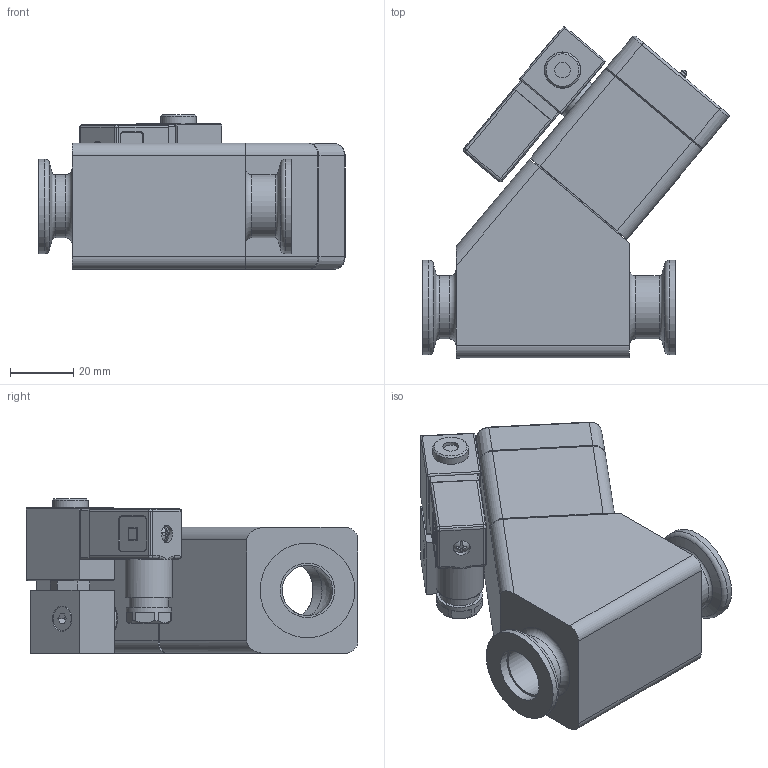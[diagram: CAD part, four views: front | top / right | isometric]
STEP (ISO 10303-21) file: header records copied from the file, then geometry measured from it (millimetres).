
FILE_DESCRIPTION(/* description */ (''),/* implementation_level */ '2;1');
FILE_NAME(/* name */ '1464228908_203.stp',/* time_stamp */ '2013-10-23T08:57:39+02:00',/* author */ (''),/* organization */ (''),/* preprocessor_version */ 'ST-DEVELOPER v11',/* originating_system */ 'SIEMENS PLM Software NX 7.5',/* authorisation */ '');
FILE_SCHEMA (('AP203_CONFIGURATION_CONTROLLED_3D_DESIGN_OF_MECHANICAL_PARTS_AND_ASSEMBLIES_MIM_LF'));
Length unit declared in the file: millimetre
Products named in the file (13): 467882; 437235; 233364; 236204_1.1; 244091.2; 466052; 244224.1; 243880.7; 244168.6; 239982.4; N-8501-400.2_MODELNX-ARRAGMNTArrangement 1; 443457; 326810
Assembly tree (16 placements, depth 4):
  326810
    244168.6
    243880.7
    244224.1  x4
    466052
    443457
      244091.2
      N-8501-400.2_MODELNX-ARRAGMNTArrangement 1
        437235
        467882
    239982.4
      236204_1.1  x2
      233364
Bounding box: 97.1 x 105.22 x 49.1 mm (x, y, z)
Volume: 149294 mm3; surface area: 66293.6 mm2
Topology: 22 solids, 23 shells, 757 faces, 1847 edges, 1199 vertices
Faces by surface type: plane 434, cylinder 181, cone 91, bspline 28, torus 16, sphere 7
Full cylindrical faces by diameter (mm): 2 x2, 2.3 x1, 2.36 x4, 2.4 x4, 2.5 x10, 2.8 x1, 3 x20, 3.4 x4, 4 x2, 4.2 x1, 4.22 x1, 4.7 x3, 4.8 x1, 5 x5, 5.5 x5, 5.6 x2, 6 x4, 6.013 x2, 6.5 x4, 7.4 x1, 7.6 x1, 7.9 x1, 8 x1, 8.85 x1, 10.2 x1, 11.3 x1, 11.4 x1, 11.5 x1, 12.5 x1, 13.5 x1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
Entity records: 23832 total; most frequent: CARTESIAN_POINT 4987, DIRECTION 3217, ORIENTED_EDGE 2970, EDGE_CURVE 1485, AXIS2_PLACEMENT_3D 1164, VERTEX_POINT 1073, EDGE_LOOP 957, LINE 889
